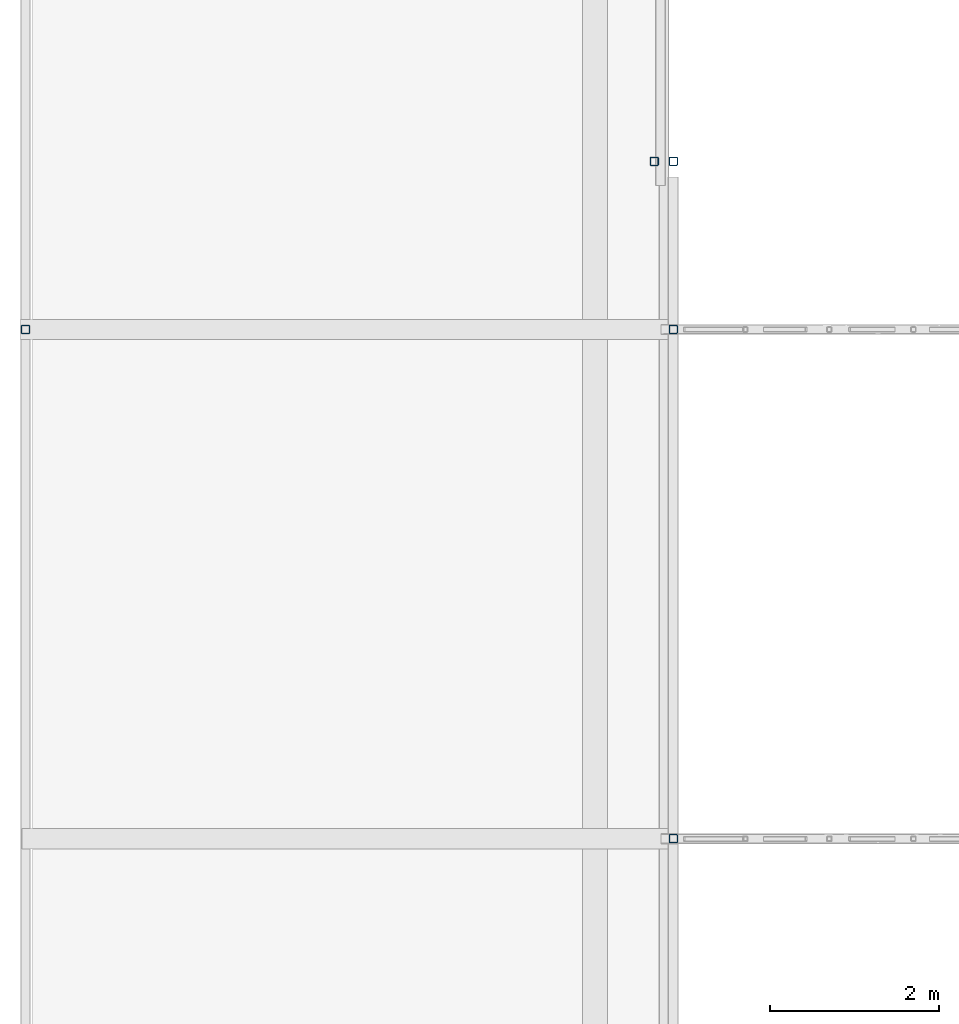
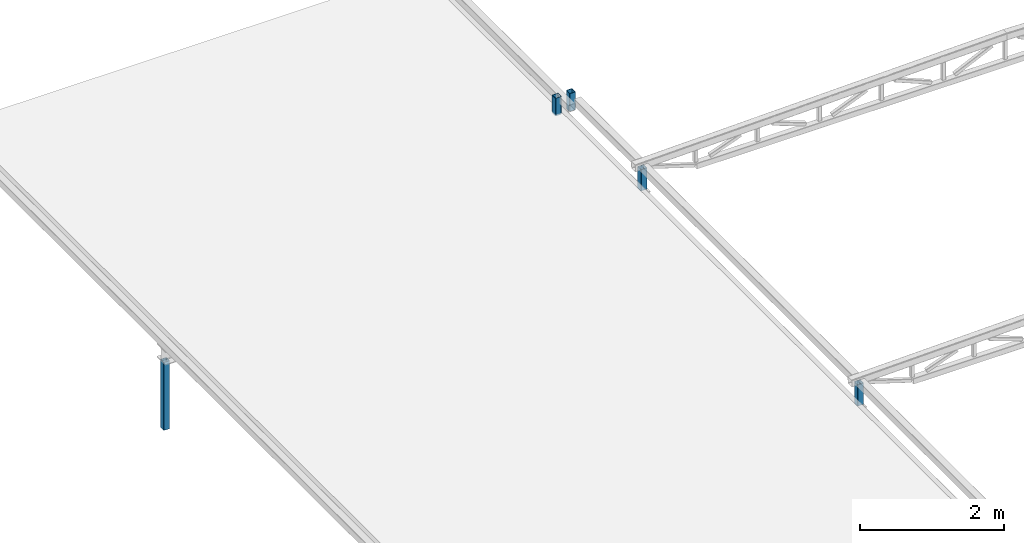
# One storey, part 1 of 12: 5 columns.
"""IFC2X3 building model written with IfcOpenShell, lengths in millimetres."""

from ifc_helpers import new_model, entity, si_unit, converted_unit, derived_unit, direction, frame, frame_2d, origin, place, context, subcontext, project, spatial, polyline, circle_curve, parameter, trimmed, segment, composite_curve, outline, extrude, source, transform, mapped, material, type_object, type_shapes, element, save


model = new_model("IFC2X3")

# Units and contexts
model_context = context("Model", 3, precision=0.01, world=origin(), true_north=direction((6.12303176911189e-17, 1.0)))
body_context = subcontext(model_context, "Body", "Model", "MODEL_VIEW")
ifc_project = project(units=[si_unit("LENGTHUNIT", "METRE", prefix="MILLI"), si_unit("AREAUNIT", "SQUARE_METRE"), si_unit("VOLUMEUNIT", "CUBIC_METRE"), converted_unit("PLANEANGLEUNIT", "DEGREE", entity("IfcRatioMeasure", 0.0174532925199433), si_unit("PLANEANGLEUNIT", "RADIAN"), dimensions=[0, 0, 0, 0, 0, 0, 0]), si_unit("MASSUNIT", "GRAM", prefix="KILO"), derived_unit("MASSDENSITYUNIT", [(si_unit("MASSUNIT", "GRAM", prefix="KILO"), 1), (si_unit("LENGTHUNIT", "METRE"), -3)]), si_unit("TIMEUNIT", "SECOND"), si_unit("FREQUENCYUNIT", "HERTZ"), si_unit("THERMODYNAMICTEMPERATUREUNIT", "DEGREE_CELSIUS"), derived_unit("THERMALTRANSMITTANCEUNIT", [(si_unit("MASSUNIT", "GRAM", prefix="KILO"), 1), (si_unit("THERMODYNAMICTEMPERATUREUNIT", "KELVIN"), -1), (si_unit("TIMEUNIT", "SECOND"), -3)]), derived_unit("VOLUMETRICFLOWRATEUNIT", [(si_unit("LENGTHUNIT", "METRE"), 3), (si_unit("TIMEUNIT", "SECOND"), -1)]), si_unit("ELECTRICCURRENTUNIT", "AMPERE"), si_unit("ELECTRICVOLTAGEUNIT", "VOLT"), si_unit("POWERUNIT", "WATT"), si_unit("FORCEUNIT", "NEWTON", prefix="KILO"), si_unit("ILLUMINANCEUNIT", "LUX"), si_unit("LUMINOUSFLUXUNIT", "LUMEN"), si_unit("LUMINOUSINTENSITYUNIT", "CANDELA"), derived_unit("USERDEFINED", [(si_unit("MASSUNIT", "GRAM", prefix="KILO"), -1), (si_unit("LENGTHUNIT", "METRE"), -2), (si_unit("TIMEUNIT", "SECOND"), 3), (si_unit("LUMINOUSFLUXUNIT", "LUMEN"), 1)]), derived_unit("LINEARVELOCITYUNIT", [(si_unit("LENGTHUNIT", "METRE"), 1), (si_unit("TIMEUNIT", "SECOND"), -1)]), si_unit("PRESSUREUNIT", "PASCAL"), derived_unit("USERDEFINED", [(si_unit("LENGTHUNIT", "METRE"), -2), (si_unit("MASSUNIT", "GRAM", prefix="KILO"), 1), (si_unit("TIMEUNIT", "SECOND"), -2)])], contexts=[model_context])

# Site, building, storey
site_placement = place(None, frame((0.0, 0.0, 101000.0)))
site = spatial("IfcSite", under=ifc_project, at=site_placement, Name="Default", CompositionType="ELEMENT")
building_placement = place(site_placement, origin())
building = spatial("IfcBuilding", under=site, at=building_placement, CompositionType="ELEMENT")
storey_placement = place(building_placement, frame((0.0, 0.0, 6025.0)))
storey = spatial("IfcBuildingStorey", under=building, at=storey_placement, Name="03", CompositionType="ELEMENT", Elevation=6024.9999999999)

# Columns
ifc_material = material(Name="S355")
column_type_1 = type_object("IfcColumnType", Name="HUP 100x100x6.3", PredefinedType="COLUMN", material=ifc_material)
shared_shape_1 = source(origin(), body_context, "Body", "SweptSolid", [
    extrude(outline(composite_curve([segment(polyline([(-37.4000000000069, -50.0), (37.3999999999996, -50.0)]), True, "CONTINUOUS"), segment(trimmed(circle_curve(frame_2d((37.3999999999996, -37.3999999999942), x_axis=(-1.0, 0.0)), 12.6000000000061), [parameter(90.0000000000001)], [parameter(180.0)], True, "PARAMETER"), True, "CONTINUOUS"), segment(polyline([(50.0, -37.3999999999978), (50.0, 37.4000000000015)]), True, "CONTINUOUS"), segment(trimmed(circle_curve(frame_2d((37.4000000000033, 37.4000000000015), x_axis=(-1.0, 0.0)), 12.6000000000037), [parameter(180.0)], [parameter(270.0)], True, "PARAMETER"), True, "CONTINUOUS"), segment(polyline([(37.4000000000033, 50.0), (-37.4000000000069, 50.0)]), True, "CONTINUOUS"), segment(trimmed(circle_curve(frame_2d((-37.4000000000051, 37.4000000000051), x_axis=(-1.0, 0.0)), 12.6000000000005), [parameter(270.0)], [parameter(360.0)], True, "PARAMETER"), True, "CONTINUOUS"), segment(polyline([(-50.0, 37.4000000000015), (-50.0, -37.4000000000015)]), True, "CONTINUOUS"), segment(trimmed(circle_curve(frame_2d((-37.4000000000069, -37.4000000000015), x_axis=(-1.0, 0.0)), 12.5999999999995), [parameter(360.0)], [parameter(89.9999999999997)], True, "PARAMETER"), True, "CONTINUOUS")], self_intersect=False), holes=[composite_curve([segment(trimmed(circle_curve(frame_2d((-37.4000000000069, -37.4000000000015), x_axis=(-1.0, 0.0)), 6.2999999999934), [parameter(0.0)], [parameter(90.0)], True, "PARAMETER"), False, "CONTINUOUS"), segment(polyline([(-43.7000000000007, -37.4000000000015), (-43.7000000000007, 37.4000000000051)]), True, "CONTINUOUS"), segment(trimmed(circle_curve(frame_2d((-37.4000000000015, 37.4000000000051), x_axis=(-1.0, 0.0)), 6.29999999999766), [parameter(270.0)], [parameter(360.0)], True, "PARAMETER"), False, "CONTINUOUS"), segment(polyline([(-37.4000000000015, 43.7000000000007), (37.3999999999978, 43.7000000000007)]), True, "CONTINUOUS"), segment(trimmed(circle_curve(frame_2d((37.3999999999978, 37.4000000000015), x_axis=(-1.0, 0.0)), 6.30000000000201), [parameter(180.0)], [parameter(270.0)], True, "PARAMETER"), False, "CONTINUOUS"), segment(polyline([(43.7000000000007, 37.4000000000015), (43.7000000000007, -37.3999999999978)]), True, "CONTINUOUS"), segment(trimmed(circle_curve(frame_2d((37.3999999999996, -37.3999999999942), x_axis=(-1.0, 0.0)), 6.30000000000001), [parameter(90.0000000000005)], [parameter(180.0)], True, "PARAMETER"), False, "CONTINUOUS"), segment(polyline([(37.3999999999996, -43.6999999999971), (-37.4000000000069, -43.6999999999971)]), True, "CONTINUOUS")], self_intersect=False)]), frame((11411.2644969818, 32420.5450559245, 5580.0), z_axis=(0.0, 0.0, 1.0), x_axis=(-1.0, 0.0, 0.0)), (0.0, 0.0, 1.0), 358.87075525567),
])
type_shapes(column_type_1, [shared_shape_1])
column_1_placement = place(storey_placement, frame((0.0, 0.0, -6025.0)))
element("IfcColumn", 1, at=column_1_placement, inside=storey, type_object=column_type_1, material=ifc_material, Name="Søyle HUP:HUP 100x100x6.3", ObjectType="HUP 100x100x6.3", context=body_context, shape_type="MappedRepresentation", body=[
    mapped(shared_shape_1, transform((0.0, 0.0, 0.0), scale=1.0)),
])
column_type_2 = type_object("IfcColumnType", Name="HUP 100x100x6.3", PredefinedType="COLUMN", material=ifc_material)
shared_shape_2 = source(origin(), body_context, "Body", "SweptSolid", [
    extrude(outline(composite_curve([segment(polyline([(-37.4000000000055, -50.0), (37.400000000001, -50.0)]), True, "CONTINUOUS"), segment(trimmed(circle_curve(frame_2d((37.400000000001, -37.3999999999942), x_axis=(-1.0, 0.0)), 12.6000000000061), [parameter(90.0000000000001)], [parameter(180.0)], True, "PARAMETER"), True, "CONTINUOUS"), segment(polyline([(50.0, -37.3999999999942), (50.0, 37.4000000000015)]), True, "CONTINUOUS"), segment(trimmed(circle_curve(frame_2d((37.4000000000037, 37.4000000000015), x_axis=(-1.0, 0.0)), 12.6000000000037), [parameter(180.0)], [parameter(270.0)], True, "PARAMETER"), True, "CONTINUOUS"), segment(polyline([(37.4000000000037, 50.0), (-37.4000000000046, 50.0)]), True, "CONTINUOUS"), segment(trimmed(circle_curve(frame_2d((-37.4000000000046, 37.4000000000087), x_axis=(-1.0, 0.0)), 12.6000000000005), [parameter(270.0)], [parameter(360.0)], True, "PARAMETER"), True, "CONTINUOUS"), segment(polyline([(-50.0, 37.4000000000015), (-50.0, -37.4000000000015)]), True, "CONTINUOUS"), segment(trimmed(circle_curve(frame_2d((-37.4000000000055, -37.4000000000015), x_axis=(-1.0, 0.0)), 12.5999999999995), [parameter(360.0)], [parameter(89.9999999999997)], True, "PARAMETER"), True, "CONTINUOUS")], self_intersect=False), holes=[composite_curve([segment(trimmed(circle_curve(frame_2d((-37.4000000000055, -37.4000000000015), x_axis=(-1.0, 0.0)), 6.2999999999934), [parameter(0.0)], [parameter(90.0)], True, "PARAMETER"), False, "CONTINUOUS"), segment(polyline([(-43.6999999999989, -37.4000000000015), (-43.6999999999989, 37.4000000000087)]), True, "CONTINUOUS"), segment(trimmed(circle_curve(frame_2d((-37.4000000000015, 37.4000000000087), x_axis=(-1.0, 0.0)), 6.29999999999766), [parameter(270.0)], [parameter(360.0)], True, "PARAMETER"), False, "CONTINUOUS"), segment(polyline([(-37.4000000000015, 43.7000000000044), (37.3999999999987, 43.7000000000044)]), True, "CONTINUOUS"), segment(trimmed(circle_curve(frame_2d((37.3999999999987, 37.4000000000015), x_axis=(-1.0, 0.0)), 6.30000000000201), [parameter(180.0)], [parameter(270.0)], True, "PARAMETER"), False, "CONTINUOUS"), segment(polyline([(43.7000000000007, 37.4000000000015), (43.7000000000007, -37.3999999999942)]), True, "CONTINUOUS"), segment(trimmed(circle_curve(frame_2d((37.400000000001, -37.3999999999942), x_axis=(-1.0, 0.0)), 6.30000000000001), [parameter(90.0000000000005)], [parameter(180.0)], True, "PARAMETER"), False, "CONTINUOUS"), segment(polyline([(37.400000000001, -43.6999999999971), (-37.4000000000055, -43.6999999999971)]), True, "CONTINUOUS")], self_intersect=False)]), frame((3761.26449698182, 38432.9507529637, 4200.0), z_axis=(0.0, 0.0, 1.0), x_axis=(-1.0, 0.0, 0.0)), (0.0, 0.0, 1.0), 1149.99999999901),
])
type_shapes(column_type_2, [shared_shape_2])
column_2_placement = place(storey_placement, frame((0.0, 0.0, -6025.0)))
element("IfcColumn", 2, at=column_2_placement, inside=storey, type_object=column_type_2, material=ifc_material, Name="Søyle HUP:HUP 100x100x6.3", ObjectType="HUP 100x100x6.3", context=body_context, shape_type="MappedRepresentation", body=[
    mapped(shared_shape_2, transform((0.0, 0.0, 0.0), scale=1.0)),
])
column_type_3 = type_object("IfcColumnType", Name="HUP 100x100x6.3", PredefinedType="COLUMN", material=ifc_material)
shared_shape_3 = source(origin(), body_context, "Body", "SweptSolid", [
    extrude(outline(composite_curve([segment(polyline([(-37.4000000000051, -50.0), (37.4000000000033, -50.0)]), True, "CONTINUOUS"), segment(trimmed(circle_curve(frame_2d((37.4000000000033, -37.3999999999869), x_axis=(-1.0, 0.0)), 12.6000000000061), [parameter(90.0000000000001)], [parameter(180.0)], True, "PARAMETER"), True, "CONTINUOUS"), segment(polyline([(50.0, -37.3999999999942), (50.0, 37.4000000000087)]), True, "CONTINUOUS"), segment(trimmed(circle_curve(frame_2d((37.4000000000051, 37.4000000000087), x_axis=(-1.0, 0.0)), 12.6000000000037), [parameter(180.0)], [parameter(270.0)], True, "PARAMETER"), True, "CONTINUOUS"), segment(polyline([(37.4000000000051, 50.0), (-37.4000000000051, 50.0)]), True, "CONTINUOUS"), segment(trimmed(circle_curve(frame_2d((-37.4000000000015, 37.4000000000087), x_axis=(-1.0, 0.0)), 12.6000000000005), [parameter(270.0)], [parameter(360.0)], True, "PARAMETER"), True, "CONTINUOUS"), segment(polyline([(-50.0, 37.4000000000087), (-50.0, -37.3999999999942)]), True, "CONTINUOUS"), segment(trimmed(circle_curve(frame_2d((-37.4000000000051, -37.3999999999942), x_axis=(-1.0, 0.0)), 12.5999999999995), [parameter(360.0)], [parameter(89.9999999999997)], True, "PARAMETER"), True, "CONTINUOUS")], self_intersect=False), holes=[composite_curve([segment(trimmed(circle_curve(frame_2d((-37.4000000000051, -37.3999999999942), x_axis=(-1.0, 0.0)), 6.2999999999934), [parameter(0.0)], [parameter(90.0)], True, "PARAMETER"), False, "CONTINUOUS"), segment(polyline([(-43.6999999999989, -37.3999999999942), (-43.6999999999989, 37.4000000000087)]), True, "CONTINUOUS"), segment(trimmed(circle_curve(frame_2d((-37.3999999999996, 37.4000000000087), x_axis=(-1.0, 0.0)), 6.29999999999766), [parameter(270.0)], [parameter(360.0)], True, "PARAMETER"), False, "CONTINUOUS"), segment(polyline([(-37.3999999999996, 43.7000000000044), (37.3999999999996, 43.7000000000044)]), True, "CONTINUOUS"), segment(trimmed(circle_curve(frame_2d((37.3999999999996, 37.4000000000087), x_axis=(-1.0, 0.0)), 6.30000000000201), [parameter(180.0)], [parameter(270.0)], True, "PARAMETER"), False, "CONTINUOUS"), segment(polyline([(43.7000000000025, 37.4000000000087), (43.7000000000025, -37.3999999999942)]), True, "CONTINUOUS"), segment(trimmed(circle_curve(frame_2d((37.4000000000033, -37.3999999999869), x_axis=(-1.0, 0.0)), 6.30000000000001), [parameter(90.0000000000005)], [parameter(180.0)], True, "PARAMETER"), False, "CONTINUOUS"), segment(polyline([(37.4000000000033, -43.6999999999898), (-37.4000000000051, -43.6999999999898)]), True, "CONTINUOUS")], self_intersect=False)]), frame((11411.2644969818, 38432.9507529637, 5580.0), z_axis=(0.0, 0.0, 1.0), x_axis=(-1.0, 0.0, 0.0)), (0.0, 0.0, 1.0), 358.30426905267),
])
type_shapes(column_type_3, [shared_shape_3])
column_3_placement = place(storey_placement, frame((0.0, 0.0, -6025.0)))
element("IfcColumn", 3, at=column_3_placement, inside=storey, type_object=column_type_3, material=ifc_material, Name="Søyle HUP:HUP 100x100x6.3", ObjectType="HUP 100x100x6.3", context=body_context, shape_type="MappedRepresentation", body=[
    mapped(shared_shape_3, transform((0.0, 0.0, 0.0), scale=1.0)),
])
column_type_4 = type_object("IfcColumnType", Name="HUP 100x100x6.3", PredefinedType="COLUMN", material=ifc_material)
shared_shape_4 = source(origin(), body_context, "Body", "SweptSolid", [
    extrude(outline(composite_curve([segment(polyline([(-37.4000000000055, -50.0), (37.4000000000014, -50.0)]), True, "CONTINUOUS"), segment(trimmed(circle_curve(frame_2d((37.4000000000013, -37.3999999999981), x_axis=(-1.0, 0.0)), 12.6000000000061), [parameter(90.0000000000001)], [parameter(180.0)], True, "PARAMETER"), True, "CONTINUOUS"), segment(polyline([(50.0, -37.3999999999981), (50.0, 37.4000000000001)]), True, "CONTINUOUS"), segment(trimmed(circle_curve(frame_2d((37.4000000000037, 37.4000000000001), x_axis=(-1.0, 0.0)), 12.6000000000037), [parameter(180.0)], [parameter(270.0)], True, "PARAMETER"), True, "CONTINUOUS"), segment(polyline([(37.4000000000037, 50.0), (-37.4000000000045, 50.0)]), True, "CONTINUOUS"), segment(trimmed(circle_curve(frame_2d((-37.4000000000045, 37.4000000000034), x_axis=(-1.0, 0.0)), 12.6000000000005), [parameter(270.0)], [parameter(360.0)], True, "PARAMETER"), True, "CONTINUOUS"), segment(polyline([(-50.0, 37.4000000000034), (-50.0, -37.4000000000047)]), True, "CONTINUOUS"), segment(trimmed(circle_curve(frame_2d((-37.4000000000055, -37.4000000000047), x_axis=(-1.0, 0.0)), 12.5999999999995), [parameter(360.0)], [parameter(89.9999999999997)], True, "PARAMETER"), True, "CONTINUOUS")], self_intersect=False), holes=[composite_curve([segment(trimmed(circle_curve(frame_2d((-37.4000000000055, -37.4000000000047), x_axis=(-1.0, 0.0)), 6.2999999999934), [parameter(0.0)], [parameter(90.0)], True, "PARAMETER"), False, "CONTINUOUS"), segment(polyline([(-43.6999999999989, -37.4000000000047), (-43.6999999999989, 37.4000000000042)]), True, "CONTINUOUS"), segment(trimmed(circle_curve(frame_2d((-37.4000000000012, 37.4000000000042), x_axis=(-1.0, 0.0)), 6.29999999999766), [parameter(270.0)], [parameter(360.0)], True, "PARAMETER"), False, "CONTINUOUS"), segment(polyline([(-37.4000000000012, 43.7000000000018), (37.3999999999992, 43.7000000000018)]), True, "CONTINUOUS"), segment(trimmed(circle_curve(frame_2d((37.3999999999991, 37.3999999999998), x_axis=(-1.0, 0.0)), 6.30000000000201), [parameter(180.0)], [parameter(270.0)], True, "PARAMETER"), False, "CONTINUOUS"), segment(polyline([(43.7000000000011, 37.3999999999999), (43.7000000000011, -37.3999999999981)]), True, "CONTINUOUS"), segment(trimmed(circle_curve(frame_2d((37.4000000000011, -37.3999999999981), x_axis=(-1.0, 0.0)), 6.30000000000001), [parameter(90.0000000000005)], [parameter(180.0)], True, "PARAMETER"), False, "CONTINUOUS"), segment(polyline([(37.4000000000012, -43.6999999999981), (-37.4000000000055, -43.6999999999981)]), True, "CONTINUOUS")], self_intersect=False)]), frame((0.0, 0.0, 5725.0), z_axis=(0.0, 0.0, 1.0), x_axis=(-1.0, 0.0, 0.0)), (0.0, 0.0, 1.0), 300.0),
])
type_shapes(column_type_4, [shared_shape_4])
for number, where, name in (
    (4, (11186.2644969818, 40417.9507529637, -6025.0), "Søyle HUP:HUP 100x100x6.3"),
    (5, (11411.2644969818, 40417.9507529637, -6025.0), "Søyle HUP:HUP 100x100x6.3"),
):
    element("IfcColumn", number, at=place(storey_placement, frame(where)), inside=storey, type_object=column_type_4, material=ifc_material, Name=name, ObjectType="HUP 100x100x6.3", context=body_context, shape_type="MappedRepresentation", body=[
        mapped(shared_shape_4, transform((0.0, 0.0, 0.0), scale=1.0)),
    ])

save(model, "model.ifc")
